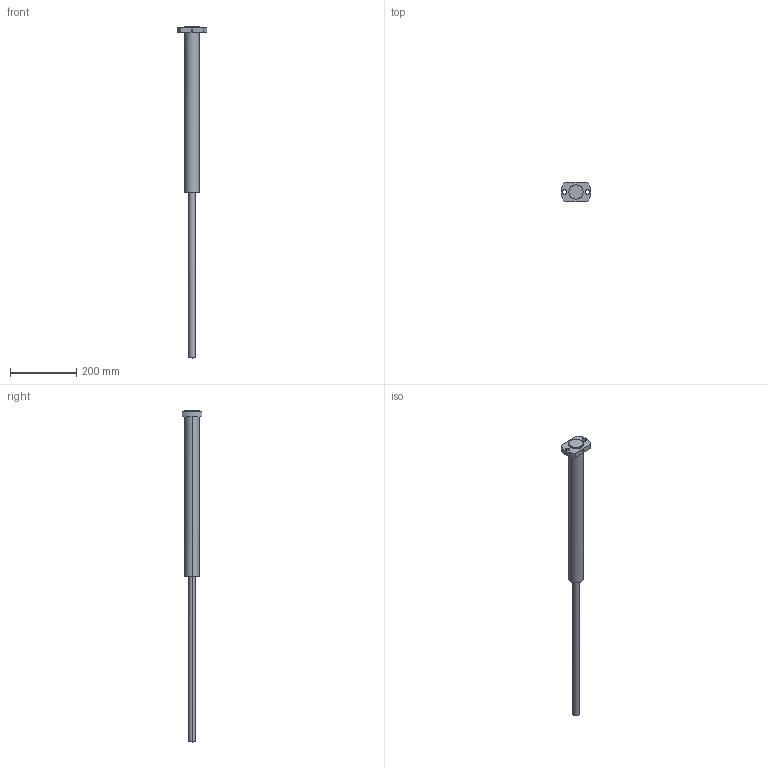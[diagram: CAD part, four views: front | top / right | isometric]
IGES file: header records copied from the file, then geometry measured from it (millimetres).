
Global section: file name: E:\UnigraphicsGraphicData\MISUMI_PRESS-PARTS\IGES\3d_papz20-500-500-480-500_01710_r00.igs; native system: NX V5.0; preprocessor: UGS NX IGES V5.0; author: MISUMI; date: 20110105.162228; units: millimetre
Bounding box: 90 x 60 x 1000 mm (x, y, z)
Surface area: 115751.9 mm2 (no closed solid volume)
Topology: 0 solids, 0 shells, 23 faces, 220 edges, 218 vertices
Faces by surface type: bspline 23
